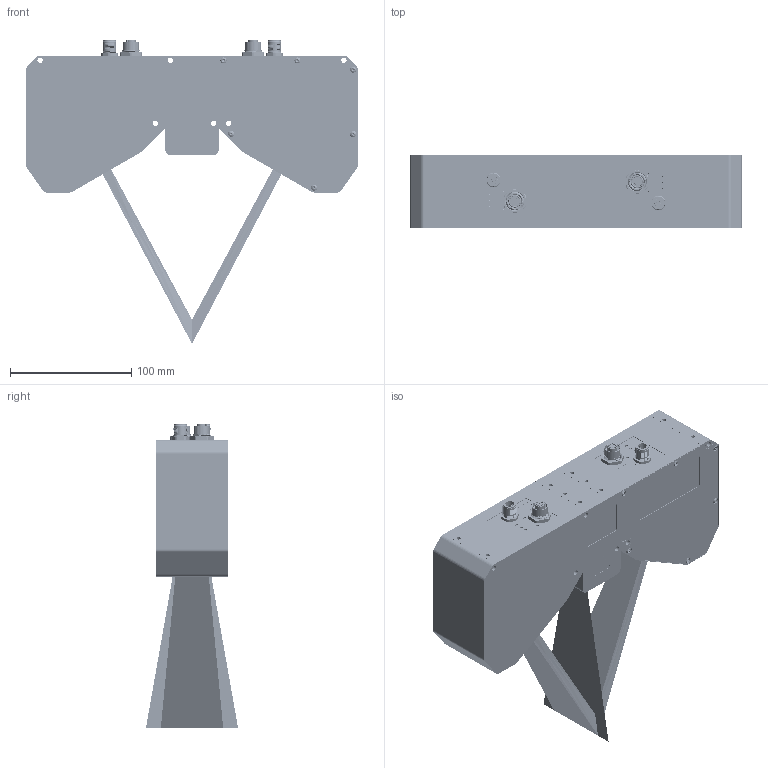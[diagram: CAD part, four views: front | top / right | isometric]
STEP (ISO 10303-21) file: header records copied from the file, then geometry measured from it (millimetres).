
FILE_DESCRIPTION(/* description */ ('C6-S7-3070-XCS-28-48-146-DX-1G-405-3R_Public'),/* implementation_level */ '2;1');
FILE_NAME(/* name */ 'C6-S7-3070-XCS-28-48-146-DX-1G-405-3R_Public.iam.stp',/* time_stamp */ '2024-05-06T11:01:59+02:00',/* author */ ('SH'),/* organization */ ('Automation Technology GmbH'),/* preprocessor_version */ 'ST-DEVELOPER v20',/* originating_system */ 'Autodesk Inventor 2024',/* authorisation */ '');
FILE_SCHEMA (('AUTOMOTIVE_DESIGN { 1 0 10303 214 3 1 1 }'));
Products named in the file (22): C6-S7-3070-XCS-28-48-146-DX-1G-405-3R_Public; 602344820; 602344821; 602345329; 202205000-211; 202205000-213; SACC-DSI-FS-8CON-L180_SCO SH_1553860-01; SACC-DSI-FS-8CON-L180_SCO SH_1553860_Stecker; SACC-DSI-FS-8CON-L180_SCO SH_1553860_Mutter; SACC-DSI-FS-8CON-L180_SCO SH_1553860_Kunststoffeinsatz; SACC-DSI-MS-17CON-M12 SCO SH_1437119-01; SACC-DSI-MS-17CON-M12 SCO SH_1437119_Stecker; SACC-DSI-MS-17CON-M12 SCO SH_1437119_Mutter; SACC-DSI-MS-17CON-M12 SCO SH_1437119_Pins; SACC-DSI-MS-17CON-M12 SCO SH_1437119_Kunststoffeinsatz; 202190016-009; C6-S7-3070-XCS-28-48-146-DX-1G-405-3R_Strahlengang; Screw GB/T 2672 M2,5 x 6; EO: 48-924; Glasscheibe2Zollx1; Screw GB/T 2672 M2,5 x 4; 1292.6001
Assembly tree (64 placements, depth 3):
  C6-S7-3070-XCS-28-48-146-DX-1G-405-3R_Public
    602344820
    602344821
    SACC-DSI-FS-8CON-L180_SCO SH_1553860-01  x2
      SACC-DSI-FS-8CON-L180_SCO SH_1553860_Stecker
      SACC-DSI-FS-8CON-L180_SCO SH_1553860_Mutter
      SACC-DSI-FS-8CON-L180_SCO SH_1553860_Kunststoffeinsatz
    SACC-DSI-MS-17CON-M12 SCO SH_1437119-01  x2
      SACC-DSI-MS-17CON-M12 SCO SH_1437119_Stecker
      SACC-DSI-MS-17CON-M12 SCO SH_1437119_Mutter
      SACC-DSI-MS-17CON-M12 SCO SH_1437119_Pins
      SACC-DSI-MS-17CON-M12 SCO SH_1437119_Kunststoffeinsatz
    202205000-213  x2
    202205000-211  x2
    202190016-009  x2
    602345329
    C6-S7-3070-XCS-28-48-146-DX-1G-405-3R_Strahlengang
    Screw GB/T 2672 M2,5 x 6  x18
    1292.6001  x10
    Glasscheibe2Zollx1  x2
    Screw GB/T 2672 M2,5 x 4  x12
    EO: 48-924
Bounding box: 274 x 76.01 x 250.7 mm (x, y, z)
Volume: 492024.5 mm3; surface area: 295824.6 mm2
Topology: 101 solids, 102 shells, 5118 faces, 12510 edges, 7877 vertices
Faces by surface type: cylinder 2066, plane 1931, bspline 646, cone 217, torus 160, sphere 98
Full cylindrical faces by diameter (mm): 0.217 x2, 0.6 x50, 0.63 x68, 0.9 x16, 1 x20, 1.1 x34, 1.2 x34, 1.5 x10, 1.567 x6, 1.6 x10, 2 x33, 2.013 x82, 2.208 x30, 2.4 x30, 2.459 x16, 2.5 x30, 2.6 x28, 2.8 x12, 3 x2, 3.2 x4, 3.242 x8, 4.4 x6, 5 x30, 5.2 x18, 5.5 x12, 7.7 x2, 8.25 x4, 8.3 x2, 8.7 x2, 10.5 x2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
Entity records: 103694 total; most frequent: CARTESIAN_POINT 50227, ORIENTED_EDGE 10854, DIRECTION 10277, EDGE_CURVE 5429, AXIS2_PLACEMENT_3D 3730, VERTEX_POINT 3596, LINE 2817, VECTOR 2817
